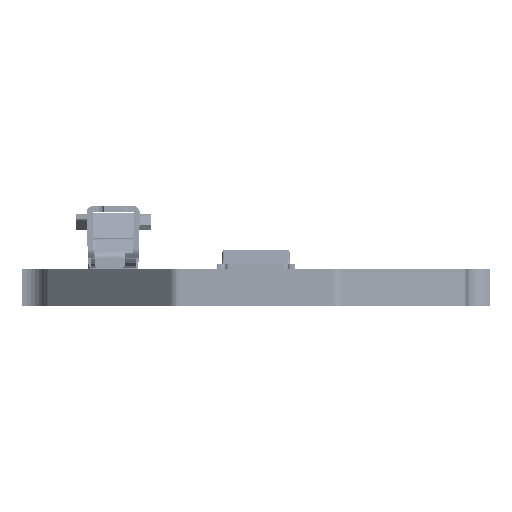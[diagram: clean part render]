
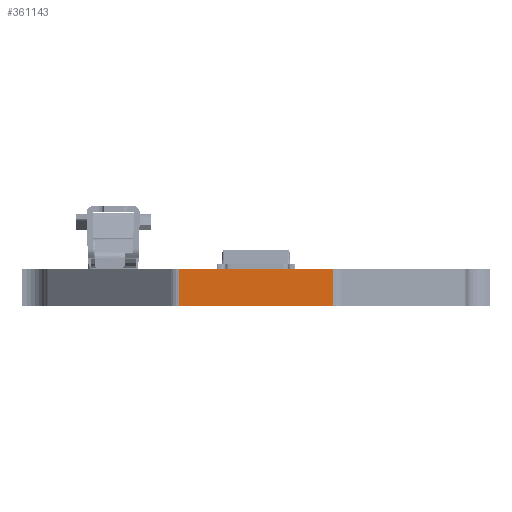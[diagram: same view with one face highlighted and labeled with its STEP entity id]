
A CAD part, left-side view. The second image highlights one B-rep face of the part: STEP entity #361143.
In plain terms, the highlighted planar face has unit normal (-1, 0, 0).
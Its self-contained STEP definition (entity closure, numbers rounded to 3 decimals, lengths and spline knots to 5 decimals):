
#32740=FACE_OUTER_BOUND('',#51872,.T.);
#51872=EDGE_LOOP('',(#306085,#306086,#306087,#306088));
#56886=LINE('',#493731,#96394);
#89564=LINE('',#578682,#129072);
#89565=LINE('',#578685,#129073);
#89566=LINE('',#578686,#129074);
#96394=VECTOR('',#397876,0.3937);
#129072=VECTOR('',#478730,0.3937);
#129073=VECTOR('',#478733,0.3937);
#129074=VECTOR('',#478734,0.3937);
#134918=VERTEX_POINT('',#493728);
#134919=VERTEX_POINT('',#493730);
#163104=VERTEX_POINT('',#578680);
#163105=VERTEX_POINT('',#578684);
#168982=EDGE_CURVE('',#134918,#134919,#56886,.T.);
#211220=EDGE_CURVE('',#134919,#163104,#89564,.T.);
#211221=EDGE_CURVE('',#163105,#134918,#89565,.T.);
#211222=EDGE_CURVE('',#163104,#163105,#89566,.T.);
#306085=ORIENTED_EDGE('',*,*,#211220,.F.);
#306086=ORIENTED_EDGE('',*,*,#168982,.F.);
#306087=ORIENTED_EDGE('',*,*,#211221,.F.);
#306088=ORIENTED_EDGE('',*,*,#211222,.F.);
#325454=PLANE('',#389224);
#361143=ADVANCED_FACE('',(#32740),#325454,.T.);
#389224=AXIS2_PLACEMENT_3D('',#578683,#478731,#478732);
#397876=DIRECTION('',(0.,-1.,0.));
#478730=DIRECTION('',(0.,0.,-1.));
#478731=DIRECTION('center_axis',(-1.,0.,0.));
#478732=DIRECTION('ref_axis',(0.,1.,0.));
#478733=DIRECTION('',(0.,0.,1.));
#478734=DIRECTION('',(0.,1.,0.));
#493728=CARTESIAN_POINT('',(0.,0.52334,0.));
#493730=CARTESIAN_POINT('',(0.,0.26406,0.));
#493731=CARTESIAN_POINT('',(0.,0.5315,0.));
#578680=CARTESIAN_POINT('',(0.,0.26406,-0.06299));
#578682=CARTESIAN_POINT('',(0.,0.26406,0.));
#578683=CARTESIAN_POINT('Origin',(0.,0.25591,
0.));
#578684=CARTESIAN_POINT('',(0.,0.52334,-0.06299));
#578685=CARTESIAN_POINT('',(0.,0.52334,0.));
#578686=CARTESIAN_POINT('',(0.,0.5315,-0.06299));
